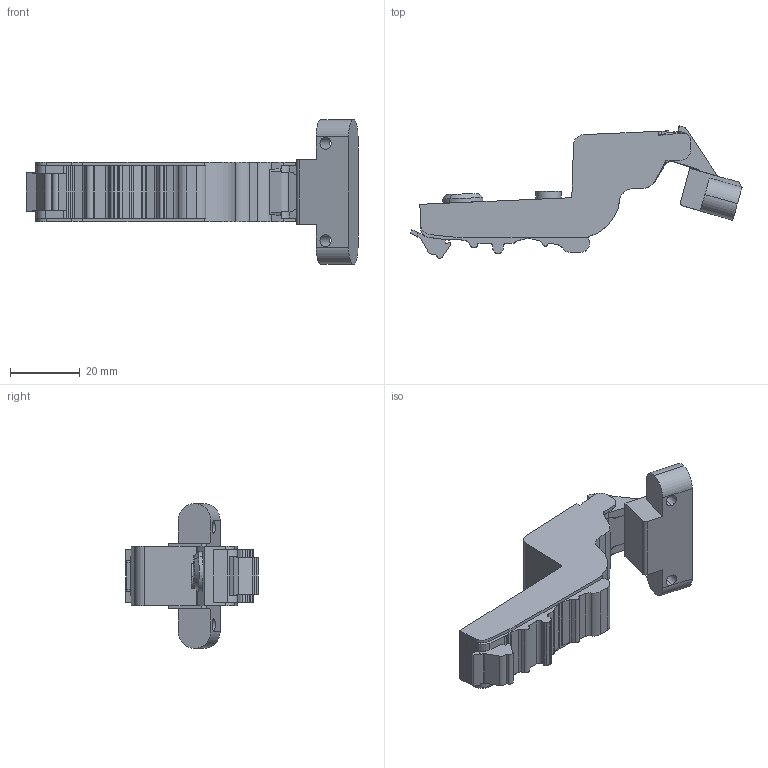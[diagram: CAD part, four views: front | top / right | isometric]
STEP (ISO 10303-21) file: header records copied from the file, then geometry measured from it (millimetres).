
FILE_DESCRIPTION (( 'STEP AP203' ), '1' );
FILE_NAME ('C82C678FA-DTC 3D open.STEP', '2025-07-21T05:07:17', ( '微软用户' ), ( '微软中国' ), 'SwSTEP 2.0', 'SolidWorks 2021', '' );
FILE_SCHEMA (( 'CONFIG_CONTROL_DESIGN' ));
Length unit declared in the file: millimetre
Products named in the file (1): C82C678FA-DTC 3D open
Bounding box: 95.5 x 38.16 x 41.6 mm (x, y, z)
Volume: 26260.3 mm3; surface area: 8867.6 mm2
Topology: 1 solids, 1 shells, 238 faces, 699 edges, 465 vertices
Faces by surface type: plane 124, cylinder 100, torus 10, cone 4
Entity records: 8195 total; most frequent: CARTESIAN_POINT 1736, ORIENTED_EDGE 1398, DIRECTION 1301, EDGE_CURVE 699, VERTEX_POINT 465, VECTOR 447, LINE 447, AXIS2_PLACEMENT_3D 427
